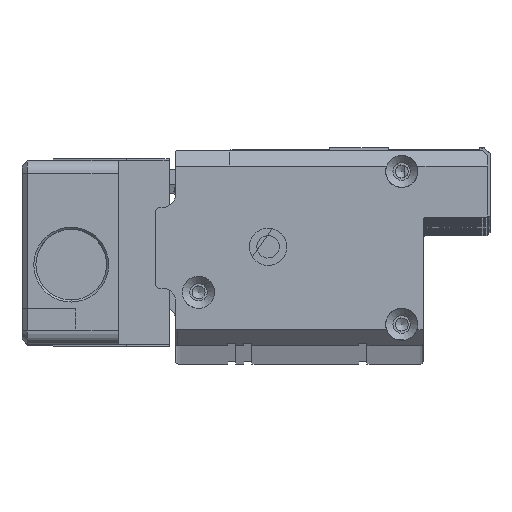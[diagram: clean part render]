
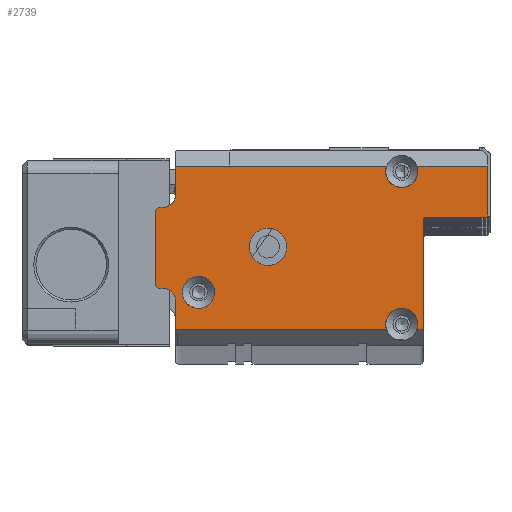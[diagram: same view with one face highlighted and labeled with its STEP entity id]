
A CAD part, top view. The second image highlights one B-rep face of the part: STEP entity #2739.
In plain terms, the highlighted planar face has unit normal (0, 0, 1).
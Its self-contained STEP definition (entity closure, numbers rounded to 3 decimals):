
#2739=ADVANCED_FACE('',(#3876,#3877,#3878),#3537,.T.);
#3537=PLANE('',#24218);
#3876=FACE_BOUND('',#5031,.T.);
#3877=FACE_BOUND('',#5032,.T.);
#3878=FACE_BOUND('',#5033,.T.);
#5031=EDGE_LOOP('',(#11589));
#5032=EDGE_LOOP('',(#11590,#11591,#11592,#11593,#11594,#11595,#11596,#11597,
#11598,#11599,#11600,#11601,#11602,#11603,#11604,#11605,#11606,#11607,#11608,
#11609));
#5033=EDGE_LOOP('',(#11610));
#6070=CIRCLE('',#24208,3.);
#6071=CIRCLE('',#24209,3.);
#6072=CIRCLE('',#24210,0.5);
#6073=CIRCLE('',#24211,0.5);
#6074=CIRCLE('',#24212,3.);
#6075=CIRCLE('',#24213,2.5);
#6076=CIRCLE('',#24214,0.5);
#6077=CIRCLE('',#24215,0.5);
#6078=CIRCLE('',#24216,2.5);
#6079=CIRCLE('',#24217,3.5);
#11589=ORIENTED_EDGE('',*,*,#17611,.T.);
#11590=ORIENTED_EDGE('',*,*,#17612,.T.);
#11591=ORIENTED_EDGE('',*,*,#17613,.T.);
#11592=ORIENTED_EDGE('',*,*,#17614,.T.);
#11593=ORIENTED_EDGE('',*,*,#17615,.T.);
#11594=ORIENTED_EDGE('',*,*,#17616,.T.);
#11595=ORIENTED_EDGE('',*,*,#17617,.T.);
#11596=ORIENTED_EDGE('',*,*,#17618,.T.);
#11597=ORIENTED_EDGE('',*,*,#17619,.T.);
#11598=ORIENTED_EDGE('',*,*,#17620,.T.);
#11599=ORIENTED_EDGE('',*,*,#17621,.T.);
#11600=ORIENTED_EDGE('',*,*,#17622,.T.);
#11601=ORIENTED_EDGE('',*,*,#17623,.T.);
#11602=ORIENTED_EDGE('',*,*,#17624,.T.);
#11603=ORIENTED_EDGE('',*,*,#17625,.T.);
#11604=ORIENTED_EDGE('',*,*,#17626,.T.);
#11605=ORIENTED_EDGE('',*,*,#17627,.T.);
#11606=ORIENTED_EDGE('',*,*,#17628,.T.);
#11607=ORIENTED_EDGE('',*,*,#17629,.T.);
#11608=ORIENTED_EDGE('',*,*,#17630,.T.);
#11609=ORIENTED_EDGE('',*,*,#17631,.T.);
#11610=ORIENTED_EDGE('',*,*,#17632,.T.);
#14526=VERTEX_POINT('',#37428);
#14527=VERTEX_POINT('',#37430);
#14528=VERTEX_POINT('',#37431);
#14529=VERTEX_POINT('',#37433);
#14530=VERTEX_POINT('',#37435);
#14531=VERTEX_POINT('',#37437);
#14532=VERTEX_POINT('',#37439);
#14533=VERTEX_POINT('',#37441);
#14534=VERTEX_POINT('',#37443);
#14535=VERTEX_POINT('',#37445);
#14536=VERTEX_POINT('',#37447);
#14537=VERTEX_POINT('',#37449);
#14538=VERTEX_POINT('',#37451);
#14539=VERTEX_POINT('',#37453);
#14540=VERTEX_POINT('',#37455);
#14541=VERTEX_POINT('',#37457);
#14542=VERTEX_POINT('',#37459);
#14543=VERTEX_POINT('',#37461);
#14544=VERTEX_POINT('',#37463);
#14545=VERTEX_POINT('',#37465);
#14546=VERTEX_POINT('',#37467);
#14547=VERTEX_POINT('',#37470);
#17611=EDGE_CURVE('',#14526,#14526,#6070,.T.);
#17612=EDGE_CURVE('',#14527,#14528,#6071,.T.);
#17613=EDGE_CURVE('',#14528,#14529,#19897,.T.);
#17614=EDGE_CURVE('',#14529,#14530,#19898,.T.);
#17615=EDGE_CURVE('',#14530,#14531,#6072,.T.);
#17616=EDGE_CURVE('',#14531,#14532,#19899,.T.);
#17617=EDGE_CURVE('',#14532,#14533,#6073,.T.);
#17618=EDGE_CURVE('',#14533,#14534,#19900,.T.);
#17619=EDGE_CURVE('',#14534,#14535,#19901,.T.);
#17620=EDGE_CURVE('',#14535,#14536,#6074,.T.);
#17621=EDGE_CURVE('',#14536,#14537,#19902,.T.);
#17622=EDGE_CURVE('',#14537,#14538,#19903,.T.);
#17623=EDGE_CURVE('',#14538,#14539,#6075,.T.);
#17624=EDGE_CURVE('',#14539,#14540,#19904,.T.);
#17625=EDGE_CURVE('',#14540,#14541,#6076,.T.);
#17626=EDGE_CURVE('',#14541,#14542,#19905,.T.);
#17627=EDGE_CURVE('',#14542,#14543,#6077,.T.);
#17628=EDGE_CURVE('',#14543,#14544,#19906,.T.);
#17629=EDGE_CURVE('',#14544,#14545,#6078,.T.);
#17630=EDGE_CURVE('',#14545,#14546,#19907,.T.);
#17631=EDGE_CURVE('',#14546,#14527,#19908,.T.);
#17632=EDGE_CURVE('',#14547,#14547,#6079,.T.);
#19897=LINE('',#37432,#22019);
#19898=LINE('',#37434,#22020);
#19899=LINE('',#37438,#22021);
#19900=LINE('',#37442,#22022);
#19901=LINE('',#37444,#22023);
#19902=LINE('',#37448,#22024);
#19903=LINE('',#37450,#22025);
#19904=LINE('',#37454,#22026);
#19905=LINE('',#37458,#22027);
#19906=LINE('',#37462,#22028);
#19907=LINE('',#37466,#22029);
#19908=LINE('',#37468,#22030);
#22019=VECTOR('',#29894,1.);
#22020=VECTOR('',#29895,1.);
#22021=VECTOR('',#29898,1.);
#22022=VECTOR('',#29901,1.);
#22023=VECTOR('',#29902,1.);
#22024=VECTOR('',#29905,1.);
#22025=VECTOR('',#29906,1.);
#22026=VECTOR('',#29909,1.);
#22027=VECTOR('',#29912,1.);
#22028=VECTOR('',#29915,1.);
#22029=VECTOR('',#29918,1.);
#22030=VECTOR('',#29919,1.);
#24208=AXIS2_PLACEMENT_3D('',#37427,#29890,#29891);
#24209=AXIS2_PLACEMENT_3D('',#37429,#29892,#29893);
#24210=AXIS2_PLACEMENT_3D('',#37436,#29896,#29897);
#24211=AXIS2_PLACEMENT_3D('',#37440,#29899,#29900);
#24212=AXIS2_PLACEMENT_3D('',#37446,#29903,#29904);
#24213=AXIS2_PLACEMENT_3D('',#37452,#29907,#29908);
#24214=AXIS2_PLACEMENT_3D('',#37456,#29910,#29911);
#24215=AXIS2_PLACEMENT_3D('',#37460,#29913,#29914);
#24216=AXIS2_PLACEMENT_3D('',#37464,#29916,#29917);
#24217=AXIS2_PLACEMENT_3D('',#37469,#29920,#29921);
#24218=AXIS2_PLACEMENT_3D('',#37471,#29922,#29923);
#29890=DIRECTION('',(0.,0.,-1.));
#29891=DIRECTION('',(-1.,0.,0.));
#29892=DIRECTION('',(0.,0.,-1.));
#29893=DIRECTION('',(-1.,0.,0.));
#29894=DIRECTION('',(1.,0.,0.));
#29895=DIRECTION('',(0.,1.,0.));
#29896=DIRECTION('',(0.,0.,-1.));
#29897=DIRECTION('',(1.,0.,0.));
#29898=DIRECTION('',(1.,0.,0.));
#29899=DIRECTION('',(0.,0.,1.));
#29900=DIRECTION('',(1.,0.,0.));
#29901=DIRECTION('',(0.,1.,0.));
#29902=DIRECTION('',(-1.,0.,0.));
#29903=DIRECTION('',(0.,0.,-1.));
#29904=DIRECTION('',(-1.,0.,0.));
#29905=DIRECTION('',(-1.,0.,0.));
#29906=DIRECTION('',(0.,-1.,0.));
#29907=DIRECTION('',(0.,0.,-1.));
#29908=DIRECTION('',(1.,0.,0.));
#29909=DIRECTION('',(-1.,0.,0.));
#29910=DIRECTION('',(0.,0.,1.));
#29911=DIRECTION('',(1.,0.,0.));
#29912=DIRECTION('',(0.,-1.,0.));
#29913=DIRECTION('',(0.,0.,1.));
#29914=DIRECTION('',(1.,0.,0.));
#29915=DIRECTION('',(1.,0.,0.));
#29916=DIRECTION('',(0.,0.,-1.));
#29917=DIRECTION('',(1.,0.,0.));
#29918=DIRECTION('',(0.,-1.,0.));
#29919=DIRECTION('',(1.,0.,0.));
#29920=DIRECTION('',(0.,0.,-1.));
#29921=DIRECTION('',(-1.,0.,0.));
#29922=DIRECTION('',(0.,0.,1.));
#29923=DIRECTION('',(-1.,0.,0.));
#37427=CARTESIAN_POINT('',(8.,-26.6,8.));
#37428=CARTESIAN_POINT('',(5.,-26.6,8.));
#37429=CARTESIAN_POINT('',(46.,-32.6,8.));
#37430=CARTESIAN_POINT('',(43.172,-33.6,8.));
#37431=CARTESIAN_POINT('',(48.828,-33.6,8.));
#37432=CARTESIAN_POINT('',(50.,-33.6,8.));
#37433=CARTESIAN_POINT('',(50.,-33.6,8.));
#37434=CARTESIAN_POINT('',(50.,-36.6,8.));
#37435=CARTESIAN_POINT('',(50.,-13.1,8.));
#37436=CARTESIAN_POINT('',(50.5,-13.1,8.));
#37437=CARTESIAN_POINT('',(50.5,-12.6,8.));
#37438=CARTESIAN_POINT('',(50.,-12.6,8.));
#37439=CARTESIAN_POINT('',(61.6,-12.6,8.));
#37440=CARTESIAN_POINT('',(61.6,-12.1,8.));
#37441=CARTESIAN_POINT('',(62.1,-12.1,8.));
#37442=CARTESIAN_POINT('',(62.1,-12.6,8.));
#37443=CARTESIAN_POINT('',(62.1,-3.,8.));
#37444=CARTESIAN_POINT('',(3.7,-3.,8.));
#37445=CARTESIAN_POINT('',(48.828,-3.,8.));
#37446=CARTESIAN_POINT('',(46.,-4.,8.));
#37447=CARTESIAN_POINT('',(43.172,-3.,8.));
#37448=CARTESIAN_POINT('',(3.7,-3.,8.));
#37449=CARTESIAN_POINT('',(3.7,-3.,8.));
#37450=CARTESIAN_POINT('',(3.7,0.,8.));
#37451=CARTESIAN_POINT('',(3.7,-8.3,8.));
#37452=CARTESIAN_POINT('',(1.2,-8.3,8.));
#37453=CARTESIAN_POINT('',(1.2,-10.8,8.));
#37454=CARTESIAN_POINT('',(3.7,-10.8,8.));
#37455=CARTESIAN_POINT('',(0.5,-10.8,8.));
#37456=CARTESIAN_POINT('',(0.5,-11.3,8.));
#37457=CARTESIAN_POINT('',(0.,-11.3,8.));
#37458=CARTESIAN_POINT('',(0.,-10.8,8.));
#37459=CARTESIAN_POINT('',(0.,-25.3,8.));
#37460=CARTESIAN_POINT('',(0.5,-25.3,8.));
#37461=CARTESIAN_POINT('',(0.5,-25.8,8.));
#37462=CARTESIAN_POINT('',(0.,-25.8,8.));
#37463=CARTESIAN_POINT('',(1.2,-25.8,8.));
#37464=CARTESIAN_POINT('',(1.2,-28.3,8.));
#37465=CARTESIAN_POINT('',(3.7,-28.3,8.));
#37466=CARTESIAN_POINT('',(3.7,-25.8,8.));
#37467=CARTESIAN_POINT('',(3.7,-33.6,8.));
#37468=CARTESIAN_POINT('',(50.,-33.6,8.));
#37469=CARTESIAN_POINT('',(21.,-18.1,8.));
#37470=CARTESIAN_POINT('',(17.5,-18.1,8.));
#37471=CARTESIAN_POINT('',(0.,0.,8.));
